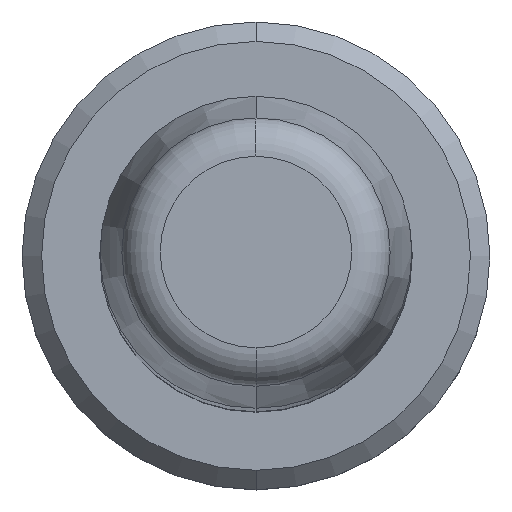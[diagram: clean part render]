
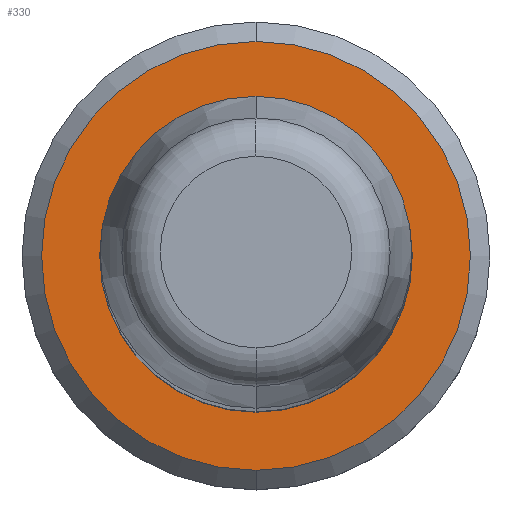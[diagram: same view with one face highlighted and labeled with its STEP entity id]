
A CAD part, top view. The second image highlights one B-rep face of the part: STEP entity #330.
In plain terms, the highlighted planar face has unit normal (0, 0, 1).
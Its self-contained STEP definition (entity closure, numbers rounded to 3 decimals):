
#70=CARTESIAN_POINT('',(0.,0.,3.));
#71=DIRECTION('',(0.,0.,-1.));
#72=DIRECTION('',(0.,1.,0.));
#73=AXIS2_PLACEMENT_3D('',#70,#71,#72);
#75=CARTESIAN_POINT('',(0.,0.,3.));
#76=DIRECTION('',(0.,0.,-1.));
#77=DIRECTION('',(0.,-1.,0.));
#78=AXIS2_PLACEMENT_3D('',#75,#76,#77);
#80=CARTESIAN_POINT('',(0.,0.,3.));
#81=DIRECTION('',(0.,0.,1.));
#82=DIRECTION('',(1.,0.,0.));
#83=AXIS2_PLACEMENT_3D('',#80,#81,#82);
#85=CARTESIAN_POINT('',(0.,0.,3.));
#86=DIRECTION('',(0.,0.,1.));
#87=DIRECTION('',(-1.,0.,0.));
#88=AXIS2_PLACEMENT_3D('',#85,#86,#87);
#167=CARTESIAN_POINT('',(0.,5.5,3.));
#168=CARTESIAN_POINT('',(0.,-5.5,3.));
#169=VERTEX_POINT('',#167);
#170=VERTEX_POINT('',#168);
#195=CARTESIAN_POINT('',(4.01,0.,3.));
#196=CARTESIAN_POINT('',(-4.01,0.,3.));
#197=VERTEX_POINT('',#195);
#198=VERTEX_POINT('',#196);
#314=CARTESIAN_POINT('',(0.,0.,3.));
#315=DIRECTION('',(0.,0.,1.));
#316=DIRECTION('',(0.,-1.,0.));
#317=AXIS2_PLACEMENT_3D('',#314,#315,#316);
#318=PLANE('',#317);
#320=ORIENTED_EDGE('',*,*,#319,.T.);
#322=ORIENTED_EDGE('',*,*,#321,.T.);
#323=EDGE_LOOP('',(#320,#322));
#324=FACE_OUTER_BOUND('',#323,.F.);
#326=ORIENTED_EDGE('',*,*,#325,.T.);
#327=ORIENTED_EDGE('',*,*,#304,.T.);
#328=EDGE_LOOP('',(#326,#327));
#329=FACE_BOUND('',#328,.F.);
#330=ADVANCED_FACE('',(#324,#329),#318,.T.);
#74=CIRCLE('',#73,5.5);
#79=CIRCLE('',#78,5.5);
#84=CIRCLE('',#83,4.01);
#89=CIRCLE('',#88,4.01);
#304=EDGE_CURVE('',#198,#197,#89,.T.);
#319=EDGE_CURVE('',#169,#170,#74,.T.);
#321=EDGE_CURVE('',#170,#169,#79,.T.);
#325=EDGE_CURVE('',#197,#198,#84,.T.);
